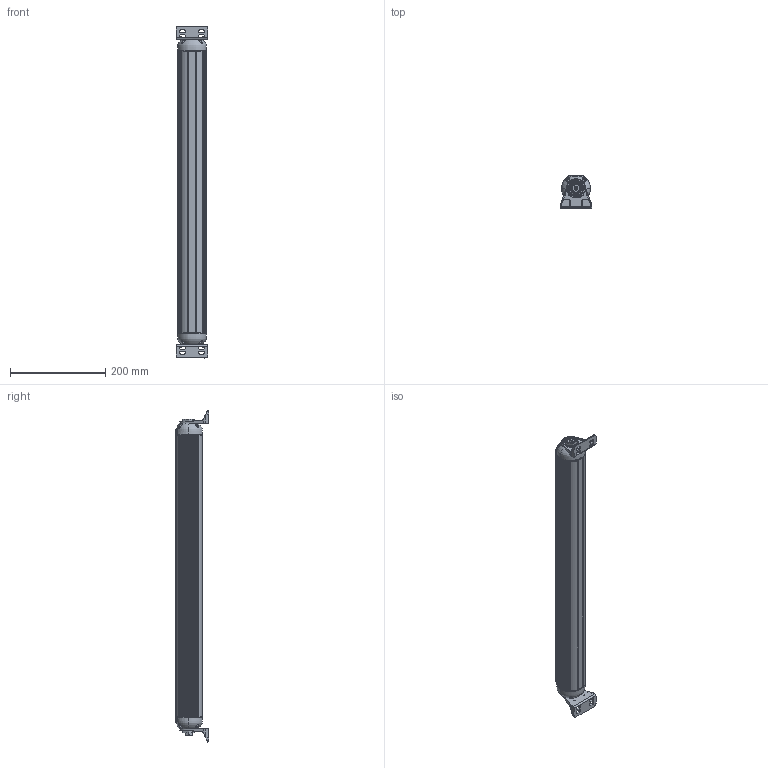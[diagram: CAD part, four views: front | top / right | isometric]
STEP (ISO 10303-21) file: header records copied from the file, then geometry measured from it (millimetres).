
FILE_DESCRIPTION (( 'STEP AP203' ), '1' );
FILE_NAME ('MWL-R400.STEP', '2025-06-16T17:51:03', ( '' ), ( '' ), 'SwSTEP 2.0', 'SolidWorks 2024', '' );
FILE_SCHEMA (( 'CONFIG_CONTROL_DESIGN' ));
Length unit declared in the file: millimetre
Products named in the file (11): ZHIJIA23__57_1; FSJQ__1; DENGTI_5__10; FSJS__1; MWL-R-600; NEW-M9R_ASM_147_ASM; MWL-R400; NUT_2_4__3; BREP_22__20; BREP_21__25; M18_40
Assembly tree (13 placements, depth 4):
  MWL-R400
    MWL-R-600
      NEW-M9R_ASM_147_ASM
        DENGTI_5__10
        BREP_22__20
        BREP_21__25
        FSJQ__1  x2
        ZHIJIA23__57_1  x2
        M18_40  x2
        NUT_2_4__3
        FSJS__1
Bounding box: 65.66 x 70 x 697 mm (x, y, z)
Volume: 1728236.5 mm3; surface area: 208164.9 mm2
Topology: 11 solids, 11 shells, 936 faces, 2678 edges, 1796 vertices
Faces by surface type: plane 374, cylinder 312, bspline 148, cone 102
Full cylindrical faces by diameter (mm): 2.05 x8, 3.356 x1, 5 x1, 6.5 x1, 9.5 x1, 10.5 x4, 18.3 x2, 18.5 x2, 21.5 x2, 23.8 x2, 32 x2, 36 x2, 36.5 x2
Entity records: 56580 total; most frequent: CARTESIAN_POINT 38446, ORIENTED_EDGE 3942, DIRECTION 2828, EDGE_CURVE 1971, VERTEX_POINT 1355, AXIS2_PLACEMENT_3D 1015, EDGE_LOOP 832, LINE 798
